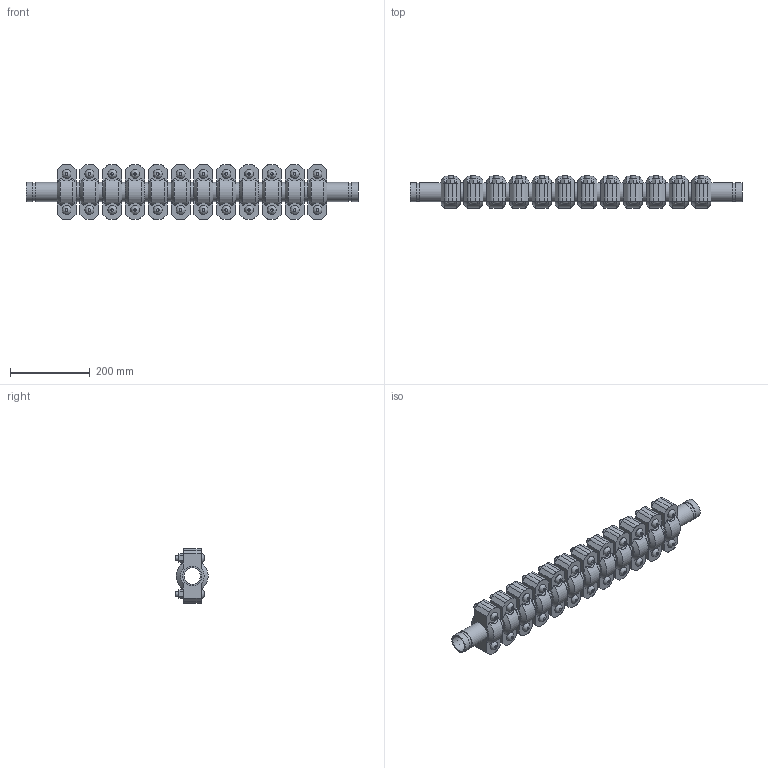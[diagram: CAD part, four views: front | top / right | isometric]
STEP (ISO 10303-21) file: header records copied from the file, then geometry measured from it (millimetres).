
FILE_DESCRIPTION(/* description */ ('VIC EXPANSION JOINT 12 COUPLINGS COMPRESSED STYLE 155 (OGS)','CAx-IF Rec.Pracs.---Representation and Presentation of Product Manufacturing Information (PMI)---4.0---2014-10-13'),/* implementation_level */ '2;1');
FILE_NAME(/* name */ 'C:\Users\kkamble\AppData\Roaming\Autodesk\ApplicationPlugins\Victaulic.Temp\A100\Victaulic_IPS_Expansion Joint_Compressed_12 Couplings_Style 155 (OGS)_1.5 (40).stp',/* time_stamp */ '2021-06-27T00:21:00+02:00',/* author */ ('kkamble'),/* organization */ ('Victaulic'),/* preprocessor_version */ 'ST-DEVELOPER v17.2',/* originating_system */ 'Autodesk Inventor 2019',/* authorisation */ '');
FILE_SCHEMA (('AP242_MANAGED_MODEL_BASED_3D_ENGINEERING_MIM_LF { 1 0 10303 442 1 1 4 }'));
Length unit declared in the file: inch
Products named in the file (4): 155-01.5; Nipple-01.5; Nipple-01.5_1; 077-01.5
Assembly tree (25 placements, depth 2):
  155-01.5
    Nipple-01.5  x2
    Nipple-01.5_1  x11
    077-01.5  x12
Bounding box: 831.85 x 81.03 x 136.65 mm (x, y, z)
Volume: 3539408.7 mm3; surface area: 792914.8 mm2
Topology: 25 solids, 49 shells, 840 faces, 2058 edges, 1440 vertices
Faces by surface type: plane 486, cylinder 282, cone 48, bspline 24
Full cylindrical faces by diameter (mm): 12.7 x48, 14.605 x24, 40.894 x13, 45.085 x26, 48.26 x51
Entity records: 3035 total; most frequent: CARTESIAN_POINT 603, DIRECTION 495, ORIENTED_EDGE 398, AXIS2_PLACEMENT_3D 200, EDGE_CURVE 199, VERTEX_POINT 142, EDGE_LOOP 105, LINE 95
